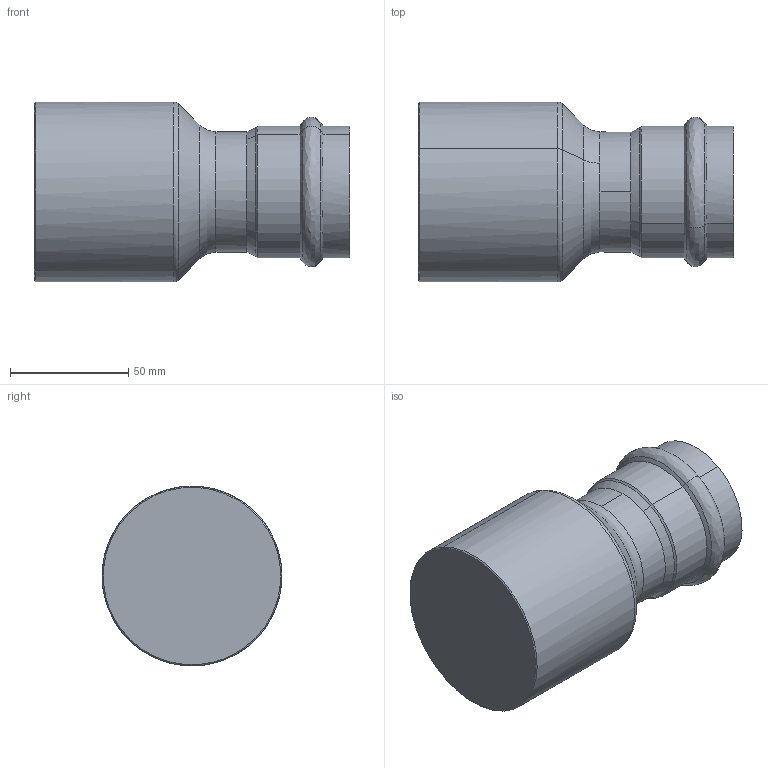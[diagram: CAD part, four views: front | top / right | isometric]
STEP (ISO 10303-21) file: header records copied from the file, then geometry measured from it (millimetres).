
FILE_DESCRIPTION(('STEP AP214'),'1');
FILE_NAME('pim0004367.stp','2015-04-30T11:02:05',('Cad-Pim'),('TransMagic, Inc.'),'TMR11sp0','TransMagic R11',' ');
FILE_SCHEMA(('AUTOMOTIVE_DESIGN'));
Length unit declared in the file: millimetre
Products named in the file (1): pim0004367
Bounding box: 133.3 x 76.08 x 76.08 mm (x, y, z)
Volume: 379394.3 mm3; surface area: 42172.9 mm2
Topology: 1 solids, 1 shells, 31 faces, 83 edges, 55 vertices
Faces by surface type: cone 12, cylinder 10, bspline 9
Entity records: 1622 total; most frequent: CARTESIAN_POINT 699, ORIENTED_EDGE 166, DIRECTION 112, EDGE_CURVE 83, VERTEX_POINT 55, AXIS2_PLACEMENT_3D 45, STYLED_ITEM 32, PRESENTATION_STYLE_ASSIGNMENT 32
